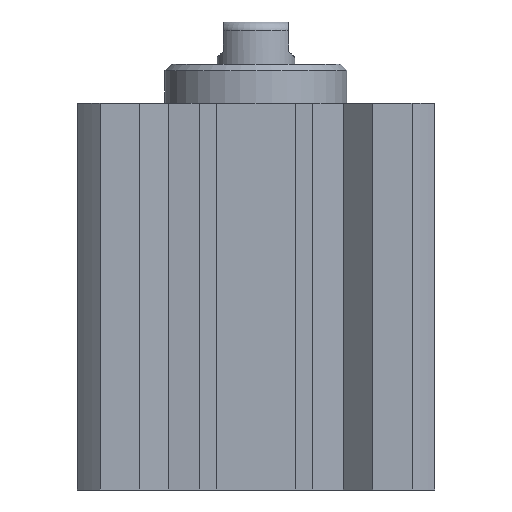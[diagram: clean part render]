
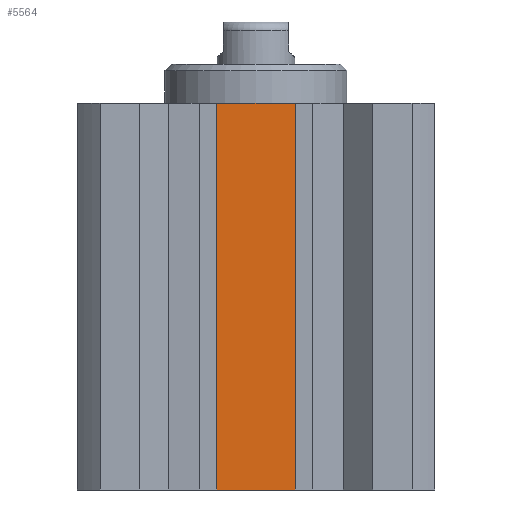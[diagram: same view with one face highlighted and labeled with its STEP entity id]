
A CAD part, front view. The second image highlights one B-rep face of the part: STEP entity #5564.
In plain terms, the highlighted planar face has unit normal (0, -1, 0).
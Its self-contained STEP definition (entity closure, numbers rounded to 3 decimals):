
#169=PLANE('',#5946);
#247=LINE('',#7491,#565);
#249=LINE('',#7496,#567);
#454=LINE('',#8110,#772);
#455=LINE('',#8111,#773);
#565=VECTOR('',#6359,1000.);
#567=VECTOR('',#6363,1000.);
#772=VECTOR('',#6908,1000.);
#773=VECTOR('',#6909,1000.);
#1490=ORIENTED_EDGE('',*,*,#2313,.T.);
#1491=ORIENTED_EDGE('',*,*,#2035,.F.);
#1492=ORIENTED_EDGE('',*,*,#2314,.T.);
#1493=ORIENTED_EDGE('',*,*,#2037,.T.);
#2035=EDGE_CURVE('',#2528,#2527,#247,.T.);
#2037=EDGE_CURVE('',#2531,#2530,#249,.T.);
#2313=EDGE_CURVE('',#2530,#2527,#454,.T.);
#2314=EDGE_CURVE('',#2528,#2531,#455,.T.);
#2527=VERTEX_POINT('',#7488);
#2528=VERTEX_POINT('',#7490);
#2530=VERTEX_POINT('',#7495);
#2531=VERTEX_POINT('',#7497);
#3227=EDGE_LOOP('',(#1490,#1491,#1492,#1493));
#3573=FACE_BOUND('',#3227,.T.);
#5564=ADVANCED_FACE('',(#3573),#169,.T.);
#5946=AXIS2_PLACEMENT_3D('',#8109,#6906,#6907);
#6359=DIRECTION('',(0.,0.,1.));
#6363=DIRECTION('',(0.,0.,1.));
#6906=DIRECTION('',(0.,-1.,0.));
#6907=DIRECTION('',(0.,0.,-1.));
#6908=DIRECTION('',(-1.,0.,0.));
#6909=DIRECTION('',(1.,0.,0.));
#7488=CARTESIAN_POINT('',(-6.35,-23.3,59.5));
#7490=CARTESIAN_POINT('',(-6.35,-23.3,0.));
#7491=CARTESIAN_POINT('',(-6.35,-23.3,0.));
#7495=CARTESIAN_POINT('',(6.35,-23.3,59.5));
#7496=CARTESIAN_POINT('',(6.35,-23.3,0.));
#7497=CARTESIAN_POINT('',(6.35,-23.3,0.));
#8109=CARTESIAN_POINT('',(6.35,-23.3,0.));
#8110=CARTESIAN_POINT('',(6.35,-23.3,59.5));
#8111=CARTESIAN_POINT('',(-6.35,-23.3,0.));
